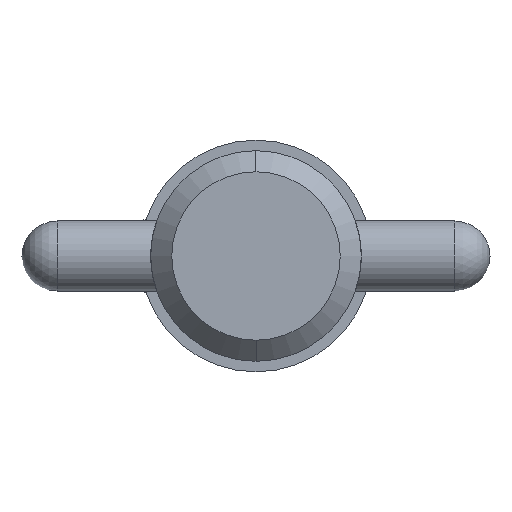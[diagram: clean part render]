
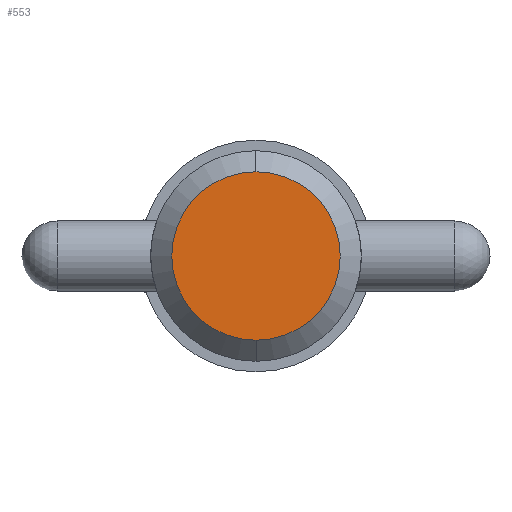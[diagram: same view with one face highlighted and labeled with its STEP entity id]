
A CAD part, left-side view. The second image highlights one B-rep face of the part: STEP entity #553.
In plain terms, the highlighted planar face has unit normal (-1, 0, 0).
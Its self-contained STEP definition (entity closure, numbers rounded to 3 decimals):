
#18 = DIRECTION ( 'NONE',  ( 0., 0., -1. ) ) ;
#60 = CARTESIAN_POINT ( 'NONE',  ( 0., 0., 0. ) ) ;
#80 = VERTEX_POINT ( 'NONE', #451 ) ;
#109 = EDGE_CURVE ( 'NONE', #429, #80, #768, .T. ) ;
#143 = AXIS2_PLACEMENT_3D ( 'NONE', #569, #247, #18 ) ;
#163 = CARTESIAN_POINT ( 'NONE',  ( 0., 0., 0. ) ) ;
#169 = DIRECTION ( 'NONE',  ( -1., 0., 0. ) ) ;
#247 = DIRECTION ( 'NONE',  ( 1., 0., 0. ) ) ;
#324 = PLANE ( 'NONE',  #753 ) ;
#384 = DIRECTION ( 'NONE',  ( 1., 0., 0. ) ) ;
#409 = EDGE_CURVE ( 'NONE', #80, #429, #523, .T. ) ;
#429 = VERTEX_POINT ( 'NONE', #942 ) ;
#451 = CARTESIAN_POINT ( 'NONE',  ( 0., 0., -5.716 ) ) ;
#523 = CIRCLE ( 'NONE', #801, 5.716 ) ;
#553 = ADVANCED_FACE ( 'NONE', ( #968 ), #324, .T. ) ;
#569 = CARTESIAN_POINT ( 'NONE',  ( 0., 0., 0. ) ) ;
#658 = ORIENTED_EDGE ( 'NONE', *, *, #109, .F. ) ;
#721 = DIRECTION ( 'NONE',  ( 0., 0., -1. ) ) ;
#753 = AXIS2_PLACEMENT_3D ( 'NONE', #163, #169, #891 ) ;
#768 = CIRCLE ( 'NONE', #143, 5.716 ) ;
#778 = EDGE_LOOP ( 'NONE', ( #871, #658 ) ) ;
#801 = AXIS2_PLACEMENT_3D ( 'NONE', #60, #384, #721 ) ;
#871 = ORIENTED_EDGE ( 'NONE', *, *, #409, .F. ) ;
#891 = DIRECTION ( 'NONE',  ( 0., 0., 1. ) ) ;
#942 = CARTESIAN_POINT ( 'NONE',  ( 0., 0., 5.716 ) ) ;
#968 = FACE_OUTER_BOUND ( 'NONE', #778, .T. ) ;
